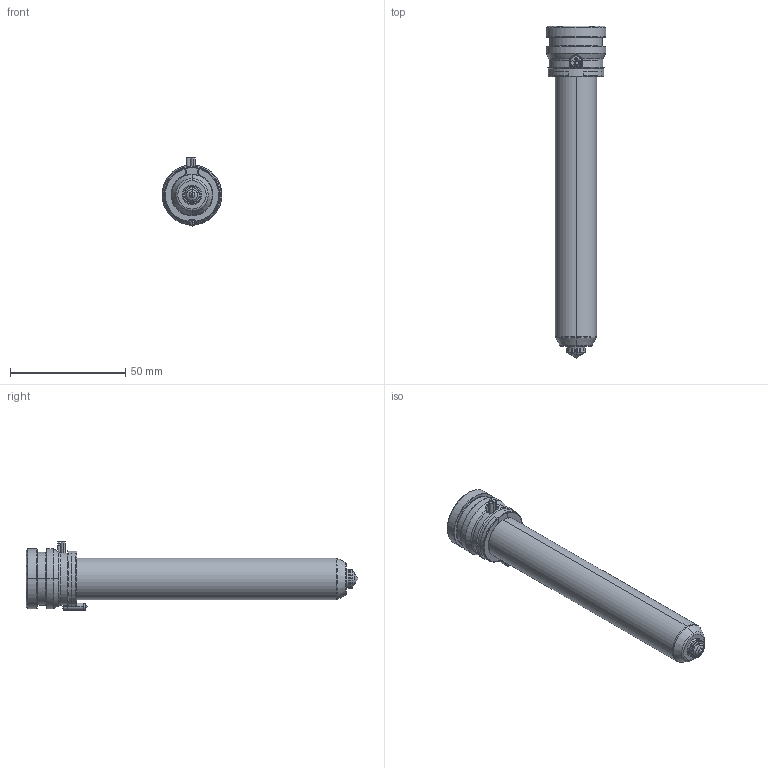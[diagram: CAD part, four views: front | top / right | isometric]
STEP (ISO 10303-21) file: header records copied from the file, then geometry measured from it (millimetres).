
FILE_DESCRIPTION((''),'2;1');
FILE_NAME('TH18126-A-1-PK-JG','2023-12-14T',('umhib'),('Thermoplay S.p.A.'),'PRO/ENGINEER BY PARAMETRIC TECHNOLOGY CORPORATION, 2017170','PRO/ENGINEER BY PARAMETRIC TECHNOLOGY CORPORATION, 2017170','');
FILE_SCHEMA(('CONFIG_CONTROL_DESIGN'));
Length unit declared in the file: millimetre
Products named in the file (1): TH18126-A-1-PK-JG
Bounding box: 26 x 144 x 29.5 mm (x, y, z)
Volume: 29503.4 mm3; surface area: 21433 mm2
Topology: 1 solids, 2 shells, 396 faces, 1032 edges, 641 vertices
Faces by surface type: cylinder 151, plane 85, cone 66, torus 56, bspline 24, sphere 12, extrusion 2
Entity records: 18004 total; most frequent: CARTESIAN_POINT 6095, ORIENTED_EDGE 2040, DIRECTION 2021, EDGE_CURVE 1022, AXIS2_PLACEMENT_3D 811, VERTEX_POINT 641, CIRCLE 440, EDGE_LOOP 416
